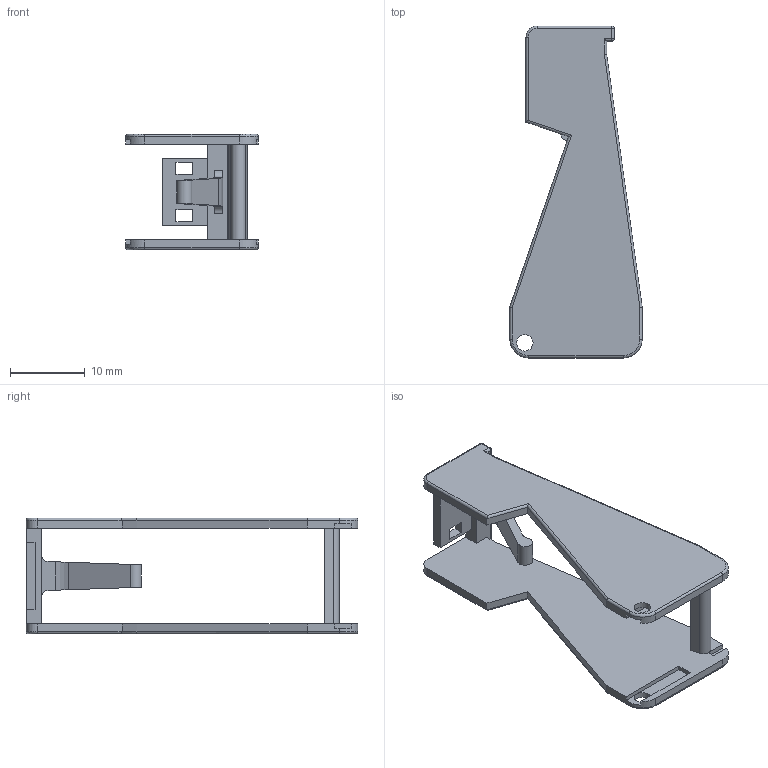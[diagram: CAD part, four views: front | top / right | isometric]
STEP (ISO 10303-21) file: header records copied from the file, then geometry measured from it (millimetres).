
FILE_DESCRIPTION(/* description */ (''),/* implementation_level */ '2;1');
FILE_NAME(/* name */ 'EF00593-1.stp',/* time_stamp */ '2022-11-02T17:05:35+01:00',/* author */ ('marco'),/* organization */ (''),/* preprocessor_version */ 'ST-DEVELOPER v19.2',/* originating_system */ 'Autodesk Inventor 2023',/* authorisation */ '');
FILE_SCHEMA (('AUTOMOTIVE_DESIGN { 1 0 10303 214 3 1 1 }'));
Length unit declared in the file: millimetre
Products named in the file (1): *U2
Bounding box: 17.7 x 44.4 x 15.5 mm (x, y, z)
Volume: 1714.9 mm3; surface area: 3027.3 mm2
Topology: 1 solids, 1 shells, 112 faces, 297 edges, 180 vertices
Faces by surface type: plane 63, cylinder 39, torus 6, sphere 4
Full cylindrical faces by diameter (mm): 2.2 x2
Entity records: 3454 total; most frequent: DIRECTION 601, ORIENTED_EDGE 586, CARTESIAN_POINT 586, EDGE_CURVE 293, LINE 211, VECTOR 211, AXIS2_PLACEMENT_3D 195, VERTEX_POINT 180
